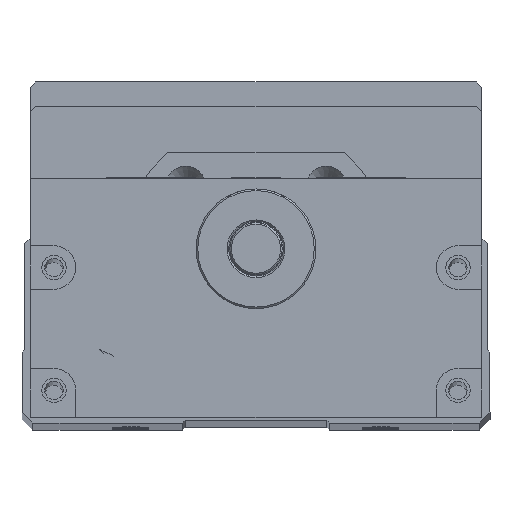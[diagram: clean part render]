
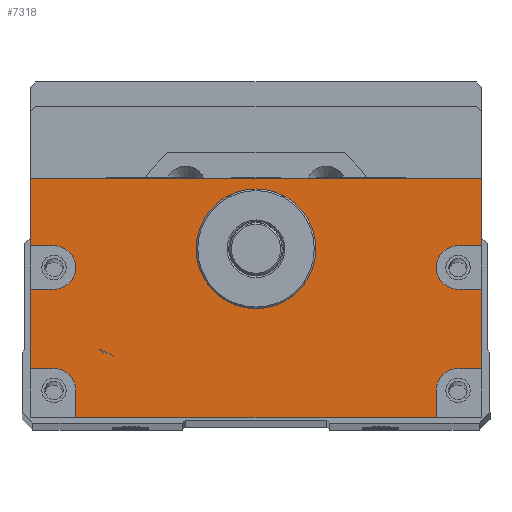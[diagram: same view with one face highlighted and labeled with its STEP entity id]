
A CAD part, top view. The second image highlights one B-rep face of the part: STEP entity #7318.
In plain terms, the highlighted planar face has unit normal (0, 0, 1).
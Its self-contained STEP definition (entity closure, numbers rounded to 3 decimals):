
#587=LINE('',#28804,#1304);
#589=LINE('',#28808,#1306);
#590=LINE('',#28811,#1307);
#591=LINE('',#28813,#1308);
#592=LINE('',#28817,#1309);
#593=LINE('',#28819,#1310);
#594=LINE('',#28820,#1311);
#595=LINE('',#28822,#1312);
#596=LINE('',#28826,#1313);
#597=LINE('',#28828,#1314);
#598=LINE('',#28830,#1315);
#599=LINE('',#28834,#1316);
#600=LINE('',#28836,#1317);
#601=LINE('',#28838,#1318);
#1304=VECTOR('',#17202,1.);
#1306=VECTOR('',#17206,1.);
#1307=VECTOR('',#17207,1.);
#1308=VECTOR('',#17208,1.);
#1309=VECTOR('',#17211,1.);
#1310=VECTOR('',#17212,1.);
#1311=VECTOR('',#17213,1.);
#1312=VECTOR('',#17214,1.);
#1313=VECTOR('',#17217,1.);
#1314=VECTOR('',#17218,1.);
#1315=VECTOR('',#17219,1.);
#1316=VECTOR('',#17222,1.);
#1317=VECTOR('',#17223,1.);
#1318=VECTOR('',#17224,1.);
#7318=ADVANCED_FACE('',(#8230,#8231),#7828,.T.);
#7828=PLANE('',#15649);
#8230=FACE_BOUND('',#8850,.T.);
#8231=FACE_BOUND('',#8851,.T.);
#8850=EDGE_LOOP('',(#10382,#10383,#10384,#10385,#10386,#10387,#10388,#10389,
#10390,#10391,#10392,#10393,#10394,#10395,#10396,#10397,#10398,#10399));
#8851=EDGE_LOOP('',(#10400));
#10382=ORIENTED_EDGE('',*,*,#13883,.F.);
#10383=ORIENTED_EDGE('',*,*,#13884,.T.);
#10384=ORIENTED_EDGE('',*,*,#13885,.F.);
#10385=ORIENTED_EDGE('',*,*,#13886,.F.);
#10386=ORIENTED_EDGE('',*,*,#13887,.F.);
#10387=ORIENTED_EDGE('',*,*,#13888,.T.);
#10388=ORIENTED_EDGE('',*,*,#13881,.T.);
#10389=ORIENTED_EDGE('',*,*,#13889,.T.);
#10390=ORIENTED_EDGE('',*,*,#13890,.F.);
#10391=ORIENTED_EDGE('',*,*,#13891,.F.);
#10392=ORIENTED_EDGE('',*,*,#13892,.F.);
#10393=ORIENTED_EDGE('',*,*,#13893,.T.);
#10394=ORIENTED_EDGE('',*,*,#13894,.F.);
#10395=ORIENTED_EDGE('',*,*,#13895,.F.);
#10396=ORIENTED_EDGE('',*,*,#13896,.F.);
#10397=ORIENTED_EDGE('',*,*,#13897,.T.);
#10398=ORIENTED_EDGE('',*,*,#13898,.F.);
#10399=ORIENTED_EDGE('',*,*,#13899,.F.);
#10400=ORIENTED_EDGE('',*,*,#13867,.T.);
#12700=VERTEX_POINT('',#28775);
#12713=VERTEX_POINT('',#28803);
#12714=VERTEX_POINT('',#28805);
#12715=VERTEX_POINT('',#28809);
#12716=VERTEX_POINT('',#28810);
#12717=VERTEX_POINT('',#28812);
#12718=VERTEX_POINT('',#28814);
#12719=VERTEX_POINT('',#28816);
#12720=VERTEX_POINT('',#28818);
#12721=VERTEX_POINT('',#28821);
#12722=VERTEX_POINT('',#28823);
#12723=VERTEX_POINT('',#28825);
#12724=VERTEX_POINT('',#28827);
#12725=VERTEX_POINT('',#28829);
#12726=VERTEX_POINT('',#28831);
#12727=VERTEX_POINT('',#28833);
#12728=VERTEX_POINT('',#28835);
#12729=VERTEX_POINT('',#28837);
#12730=VERTEX_POINT('',#28839);
#13867=EDGE_CURVE('',#12700,#12700,#15015,.T.);
#13881=EDGE_CURVE('',#12714,#12713,#587,.T.);
#13883=EDGE_CURVE('',#12715,#12716,#589,.T.);
#13884=EDGE_CURVE('',#12715,#12717,#590,.T.);
#13885=EDGE_CURVE('',#12718,#12717,#591,.T.);
#13886=EDGE_CURVE('',#12719,#12718,#15024,.T.);
#13887=EDGE_CURVE('',#12720,#12719,#592,.T.);
#13888=EDGE_CURVE('',#12720,#12714,#593,.T.);
#13889=EDGE_CURVE('',#12713,#12721,#594,.T.);
#13890=EDGE_CURVE('',#12722,#12721,#595,.T.);
#13891=EDGE_CURVE('',#12723,#12722,#15025,.T.);
#13892=EDGE_CURVE('',#12724,#12723,#596,.T.);
#13893=EDGE_CURVE('',#12724,#12725,#597,.T.);
#13894=EDGE_CURVE('',#12726,#12725,#598,.T.);
#13895=EDGE_CURVE('',#12727,#12726,#15026,.T.);
#13896=EDGE_CURVE('',#12728,#12727,#599,.T.);
#13897=EDGE_CURVE('',#12728,#12729,#600,.T.);
#13898=EDGE_CURVE('',#12730,#12729,#601,.T.);
#13899=EDGE_CURVE('',#12716,#12730,#15027,.T.);
#15015=CIRCLE('',#15633,11.);
#15024=CIRCLE('',#15645,4.);
#15025=CIRCLE('',#15646,4.);
#15026=CIRCLE('',#15647,4.);
#15027=CIRCLE('',#15648,4.);
#15633=AXIS2_PLACEMENT_3D('',#28774,#17175,#17176);
#15645=AXIS2_PLACEMENT_3D('',#28815,#17209,#17210);
#15646=AXIS2_PLACEMENT_3D('',#28824,#17215,#17216);
#15647=AXIS2_PLACEMENT_3D('',#28832,#17220,#17221);
#15648=AXIS2_PLACEMENT_3D('',#28840,#17225,#17226);
#15649=AXIS2_PLACEMENT_3D('',#28841,#17227,#17228);
#17175=DIRECTION('',(0.,0.,-1.));
#17176=DIRECTION('',(1.,0.,0.));
#17202=DIRECTION('',(-1.,0.,0.));
#17206=DIRECTION('',(-1.,0.,0.));
#17207=DIRECTION('',(0.,1.,0.));
#17208=DIRECTION('',(1.,0.,0.));
#17209=DIRECTION('',(0.,0.,1.));
#17210=DIRECTION('',(1.,0.,0.));
#17211=DIRECTION('',(-1.,0.,0.));
#17212=DIRECTION('',(0.,1.,0.));
#17213=DIRECTION('',(0.,-1.,0.));
#17214=DIRECTION('',(-1.,0.,0.));
#17215=DIRECTION('',(0.,0.,1.));
#17216=DIRECTION('',(1.,0.,0.));
#17217=DIRECTION('',(1.,0.,0.));
#17218=DIRECTION('',(0.,-1.,0.));
#17219=DIRECTION('',(-1.,0.,0.));
#17220=DIRECTION('',(0.,0.,1.));
#17221=DIRECTION('',(1.,0.,0.));
#17222=DIRECTION('',(0.,1.,0.));
#17223=DIRECTION('',(1.,0.,0.));
#17224=DIRECTION('',(0.,-1.,0.));
#17225=DIRECTION('',(0.,0.,1.));
#17226=DIRECTION('',(1.,0.,0.));
#17227=DIRECTION('',(0.,0.,1.));
#17228=DIRECTION('',(1.,0.,0.));
#28774=CARTESIAN_POINT('',(150.,0.,582.5));
#28775=CARTESIAN_POINT('',(161.,0.,582.5));
#28803=CARTESIAN_POINT('',(108.5,13.,582.5));
#28804=CARTESIAN_POINT('',(191.5,13.,582.5));
#28805=CARTESIAN_POINT('',(191.5,13.,582.5));
#28808=CARTESIAN_POINT('',(191.5,-22.,582.5));
#28809=CARTESIAN_POINT('',(191.5,-22.,582.5));
#28810=CARTESIAN_POINT('',(187.115,-22.,582.5));
#28811=CARTESIAN_POINT('',(191.5,-31.,582.5));
#28812=CARTESIAN_POINT('',(191.5,-7.431,582.5));
#28813=CARTESIAN_POINT('',(191.5,-7.431,582.5));
#28814=CARTESIAN_POINT('',(187.115,-7.431,582.5));
#28815=CARTESIAN_POINT('',(187.115,-3.431,582.5));
#28816=CARTESIAN_POINT('',(187.115,0.569,582.5));
#28817=CARTESIAN_POINT('',(191.5,0.569,582.5));
#28818=CARTESIAN_POINT('',(191.5,0.569,582.5));
#28819=CARTESIAN_POINT('',(191.5,-31.,582.5));
#28820=CARTESIAN_POINT('',(108.5,27.5,582.5));
#28821=CARTESIAN_POINT('',(108.5,0.569,582.5));
#28822=CARTESIAN_POINT('',(191.5,0.569,582.5));
#28823=CARTESIAN_POINT('',(112.885,0.569,582.5));
#28824=CARTESIAN_POINT('',(112.885,-3.431,582.5));
#28825=CARTESIAN_POINT('',(112.885,-7.431,582.5));
#28826=CARTESIAN_POINT('',(191.5,-7.431,582.5));
#28827=CARTESIAN_POINT('',(108.5,-7.431,582.5));
#28828=CARTESIAN_POINT('',(108.5,27.5,582.5));
#28829=CARTESIAN_POINT('',(108.5,-22.,582.5));
#28830=CARTESIAN_POINT('',(191.5,-22.,582.5));
#28831=CARTESIAN_POINT('',(112.885,-22.,582.5));
#28832=CARTESIAN_POINT('',(112.885,-26.,582.5));
#28833=CARTESIAN_POINT('',(116.885,-26.,582.5));
#28834=CARTESIAN_POINT('',(116.885,-31.,582.5));
#28835=CARTESIAN_POINT('',(116.885,-31.,582.5));
#28836=CARTESIAN_POINT('',(108.5,-31.,582.5));
#28837=CARTESIAN_POINT('',(183.115,-31.,582.5));
#28838=CARTESIAN_POINT('',(183.115,-31.,582.5));
#28839=CARTESIAN_POINT('',(183.115,-26.,582.5));
#28840=CARTESIAN_POINT('',(187.115,-26.,582.5));
#28841=CARTESIAN_POINT('',(191.5,-31.,582.5));
